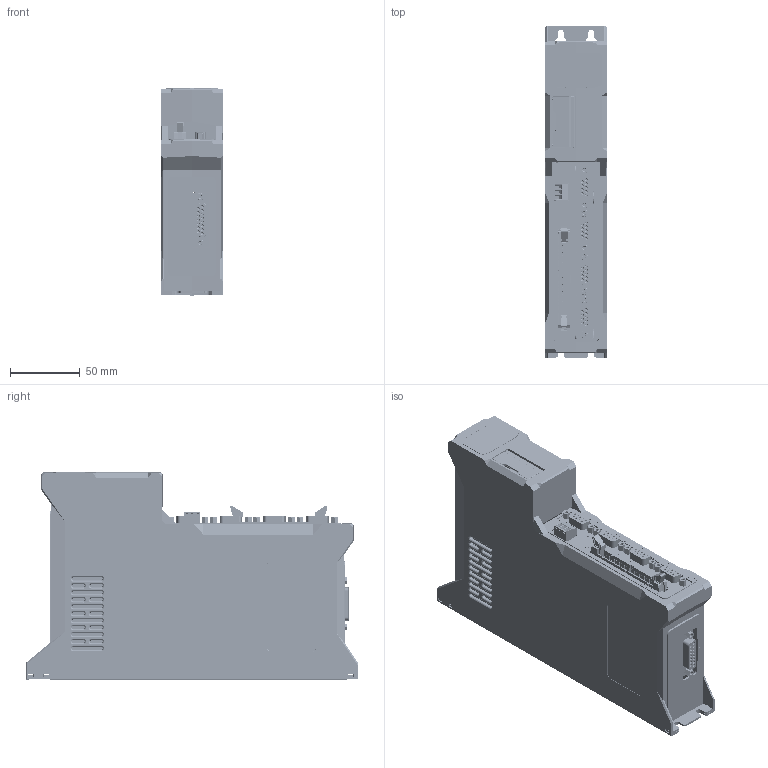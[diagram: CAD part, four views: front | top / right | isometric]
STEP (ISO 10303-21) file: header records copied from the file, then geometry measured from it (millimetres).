
FILE_DESCRIPTION (( 'STEP AP203' ), '1' );
FILE_NAME ('PULSER3-PLSE.STEP', '2025-07-03T12:31:16', ( '' ), ( '' ), 'SwSTEP 2.0', 'SolidWorks 2019', '' );
FILE_SCHEMA (( 'CONFIG_CONTROL_DESIGN' ));
Length unit declared in the file: millimetre
Products named in the file (96): 691313510003_01; 61204022121_26; 20020004d031b01lf_01; 61204022121_04; sd; RJ45pcbLEDSIZ; 61204022121; 61204022121_20; P3encEtiket06_Plse; 61204022121_05; 61204022121_27; M3x10mm_pirinçDistans; P3encAsm00_temelKasa; 61204022121_39; Pulser3_Part002_displayPcb; 61204022121_07; 691313510003_02; 61204022121_28; 20020110d031a01lf_02; P3encPart05; 61204022121_19; P3enc_Asm01_mainPcbToplu; 61204022121_03; 61204022121_40; P3encPart02; P3encPart03_plse; 61204022121_15; 61204022121_23; 61204022121_12; 61204022121_06; 61204022121_13; 61204022121_41; 61204022121_11; P3enclosure_SacPart04; P3encEtiket01; 61204022121_35; 20020110d031a01lf_05; Pulser3plse_PulseModulu; 61204022121_33; microSD_Toplu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
Assembly tree (119 placements, depth 6):
  PULSER3-PLSE
    P3encAsm00_temelKasa
      P3encPart01
      Threaded insert M3 Short  x12
      P3encPart05
      P3encPart02
      P3encPart04
      P3enc_Asm01_mainPcbToplu
        Pulser3_Part001_MainPcb
        691313510003
          691313510003_01
          691313510003_02
          691313510003_03
          691313510003_04
        RJ45pcbLEDSIZ
        RJ45disiKonnektorLEDSIZ  x2
        Pulser3_Part002_displayPcb
        microSD_Toplu
          sd
            sd
          slot
            slot
        20020110d031a01lf
          20020110d031a01lf_01
          20020110d031a01lf_02
          20020110d031a01lf_03
          20020110d031a01lf_04
          20020110d031a01lf_05
        61204022121
          61204022121_01
          61204022121_02
          61204022121_03
          61204022121_04
          61204022121_05
          61204022121_06
          61204022121_07
          61204022121_08
          61204022121_09
          61204022121_10
          61204022121_11
          61204022121_12
          61204022121_13
          61204022121_14
          61204022121_15
          61204022121_16
          61204022121_17
          61204022121_18
          61204022121_19
          61204022121_20
          61204022121_21
          61204022121_22
          61204022121_23
          61204022121_24
          61204022121_25
          61204022121_26
          61204022121_27
          61204022121_28
          61204022121_29
          61204022121_30
          61204022121_31
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Bounding box: 44 x 238.1 x 148.5 mm (x, y, z)
Volume: 282960.9 mm3; surface area: 322817.2 mm2
Topology: 119 solids, 119 shells, 12141 faces, 32194 edges, 20878 vertices
Faces by surface type: plane 8273, cylinder 2476, bspline 935, cone 424, torus 33
Entity records: 316522 total; most frequent: CARTESIAN_POINT 79988, ORIENTED_EDGE 48932, DIRECTION 43323, EDGE_CURVE 24466, LINE 18791, VECTOR 18791, VERTEX_POINT 15803, AXIS2_PLACEMENT_3D 12266
